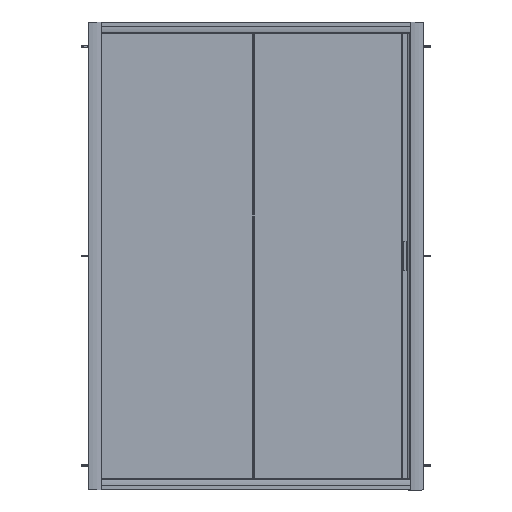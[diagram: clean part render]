
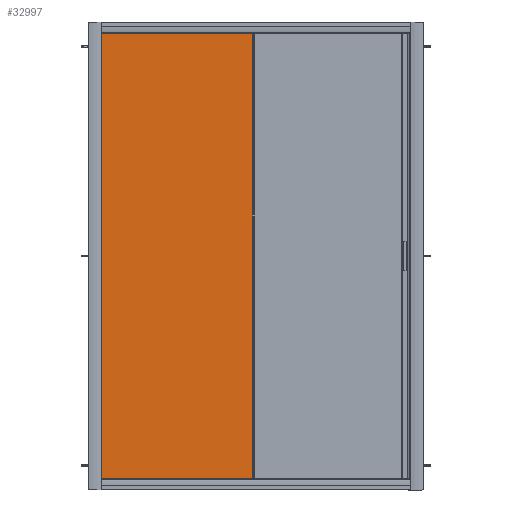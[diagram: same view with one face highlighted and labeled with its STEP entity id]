
A CAD part, left-side view. The second image highlights one B-rep face of the part: STEP entity #32997.
In plain terms, the highlighted planar face has unit normal (-1, 0, 0) as drawn and (0, 0, 1) by its records, which use the part's own axes.
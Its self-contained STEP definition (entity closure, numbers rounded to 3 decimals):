
#1835=LINE('',#49307,#4712);
#1838=LINE('',#49313,#4715);
#1841=LINE('',#49319,#4718);
#1844=LINE('',#49323,#4721);
#4712=VECTOR('',#39470,1828.);
#4715=VECTOR('',#39475,628.);
#4718=VECTOR('',#39480,1828.);
#4721=VECTOR('',#39485,628.);
#7312=PLANE('',#35216);
#9165=FACE_OUTER_BOUND('',#11099,.T.);
#11099=EDGE_LOOP('',(#23930,#23931,#23932,#23933));
#14865=VERTEX_POINT('',#49304);
#14866=VERTEX_POINT('',#49306);
#14868=VERTEX_POINT('',#49312);
#14870=VERTEX_POINT('',#49318);
#18336=EDGE_CURVE('',#14866,#14865,#1835,.T.);
#18339=EDGE_CURVE('',#14868,#14866,#1838,.T.);
#18342=EDGE_CURVE('',#14870,#14868,#1841,.T.);
#18345=EDGE_CURVE('',#14865,#14870,#1844,.T.);
#23930=ORIENTED_EDGE('',*,*,#18345,.T.);
#23931=ORIENTED_EDGE('',*,*,#18342,.T.);
#23932=ORIENTED_EDGE('',*,*,#18339,.T.);
#23933=ORIENTED_EDGE('',*,*,#18336,.T.);
#32997=ADVANCED_FACE('',(#9165),#7312,.T.);
#35216=AXIS2_PLACEMENT_3D('',#49324,#39486,#39487);
#39470=DIRECTION('',(0.,-1.,0.));
#39475=DIRECTION('',(-1.,0.,0.));
#39480=DIRECTION('',(0.,1.,0.));
#39485=DIRECTION('',(1.,0.,0.));
#39486=DIRECTION('center_axis',(0.,0.,1.));
#39487=DIRECTION('ref_axis',(1.,0.,0.));
#49304=CARTESIAN_POINT('',(-328.,0.,4.));
#49306=CARTESIAN_POINT('',(-328.,1828.,4.));
#49307=CARTESIAN_POINT('',(-328.,1828.,4.));
#49312=CARTESIAN_POINT('',(300.,1828.,4.));
#49313=CARTESIAN_POINT('',(300.,1828.,4.));
#49318=CARTESIAN_POINT('',(300.,0.,4.));
#49319=CARTESIAN_POINT('',(300.,0.,4.));
#49323=CARTESIAN_POINT('',(-328.,0.,4.));
#49324=CARTESIAN_POINT('Origin',(-14.,914.,4.));
